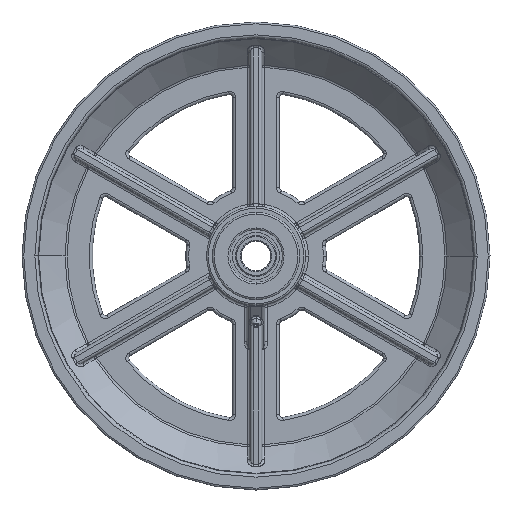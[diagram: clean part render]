
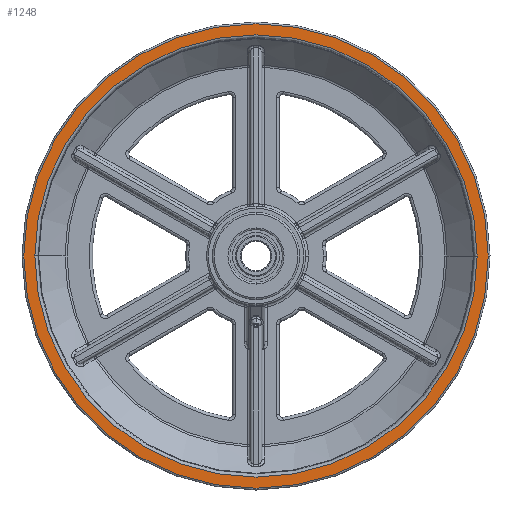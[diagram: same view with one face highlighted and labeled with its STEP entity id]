
A CAD part, left-side view. The second image highlights one B-rep face of the part: STEP entity #1248.
In plain terms, the highlighted planar face has unit normal (-1, 0, 0).
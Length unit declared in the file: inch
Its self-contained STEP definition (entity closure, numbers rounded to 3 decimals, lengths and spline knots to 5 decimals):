
#937 = EDGE_CURVE ( 'NONE', #24567, #12676, #17738, .T. ) ;
#1248 = ADVANCED_FACE ( 'NONE', ( #18065, #26059 ), #20811, .T. ) ;
#1265 = AXIS2_PLACEMENT_3D ( 'NONE', #11970, #14204, #9104 ) ;
#2187 = EDGE_LOOP ( 'NONE', ( #4323, #13374 ) ) ;
#2479 = DIRECTION ( 'NONE',  ( 1., 0., 0. ) ) ;
#3444 = AXIS2_PLACEMENT_3D ( 'NONE', #10169, #29840, #24595 ) ;
#4323 = ORIENTED_EDGE ( 'NONE', *, *, #24922, .T. ) ;
#4409 = CARTESIAN_POINT ( 'NONE',  ( -1., 3.97, 0. ) ) ;
#7160 = CARTESIAN_POINT ( 'NONE',  ( -1., -3.97, 0. ) ) ;
#8587 = VERTEX_POINT ( 'NONE', #20697 ) ;
#9104 = DIRECTION ( 'NONE',  ( 0., -1., 0. ) ) ;
#10169 = CARTESIAN_POINT ( 'NONE',  ( -1., 0., 0. ) ) ;
#10863 = CARTESIAN_POINT ( 'NONE',  ( -1., 4., 0. ) ) ;
#11643 = CIRCLE ( 'NONE', #1265, 3.78 ) ;
#11970 = CARTESIAN_POINT ( 'NONE',  ( -1., 0., 0. ) ) ;
#12556 = AXIS2_PLACEMENT_3D ( 'NONE', #26929, #2479, #29173 ) ;
#12676 = VERTEX_POINT ( 'NONE', #7160 ) ;
#12787 = EDGE_CURVE ( 'NONE', #8587, #20528, #25578, .T. ) ;
#13314 = DIRECTION ( 'NONE',  ( 0., -1., 0. ) ) ;
#13374 = ORIENTED_EDGE ( 'NONE', *, *, #937, .T. ) ;
#14204 = DIRECTION ( 'NONE',  ( 1., 0., 0. ) ) ;
#14623 = EDGE_CURVE ( 'NONE', #20528, #8587, #11643, .T. ) ;
#15128 = CIRCLE ( 'NONE', #3444, 3.97 ) ;
#15594 = CARTESIAN_POINT ( 'NONE',  ( -1., -3.78, 0. ) ) ;
#16249 = AXIS2_PLACEMENT_3D ( 'NONE', #10863, #23046, #13314 ) ;
#17602 = DIRECTION ( 'NONE',  ( 0., -1., 0. ) ) ;
#17738 = CIRCLE ( 'NONE', #31094, 3.97 ) ;
#18065 = FACE_OUTER_BOUND ( 'NONE', #2187, .T. ) ;
#20528 = VERTEX_POINT ( 'NONE', #15594 ) ;
#20697 = CARTESIAN_POINT ( 'NONE',  ( -1., 3.78, 0. ) ) ;
#20811 = PLANE ( 'NONE',  #16249 ) ;
#21652 = ORIENTED_EDGE ( 'NONE', *, *, #12787, .T. ) ;
#23046 = DIRECTION ( 'NONE',  ( -1., 0., 0. ) ) ;
#24224 = ORIENTED_EDGE ( 'NONE', *, *, #14623, .T. ) ;
#24567 = VERTEX_POINT ( 'NONE', #4409 ) ;
#24595 = DIRECTION ( 'NONE',  ( 0., -1., 0. ) ) ;
#24922 = EDGE_CURVE ( 'NONE', #12676, #24567, #15128, .T. ) ;
#25141 = EDGE_LOOP ( 'NONE', ( #24224, #21652 ) ) ;
#25578 = CIRCLE ( 'NONE', #12556, 3.78 ) ;
#26059 = FACE_BOUND ( 'NONE', #25141, .T. ) ;
#26652 = DIRECTION ( 'NONE',  ( -1., 0., 0. ) ) ;
#26929 = CARTESIAN_POINT ( 'NONE',  ( -1., 0., 0. ) ) ;
#29121 = CARTESIAN_POINT ( 'NONE',  ( -1., 0., 0. ) ) ;
#29173 = DIRECTION ( 'NONE',  ( 0., -1., 0. ) ) ;
#29840 = DIRECTION ( 'NONE',  ( -1., 0., 0. ) ) ;
#31094 = AXIS2_PLACEMENT_3D ( 'NONE', #29121, #26652, #17602 ) ;
